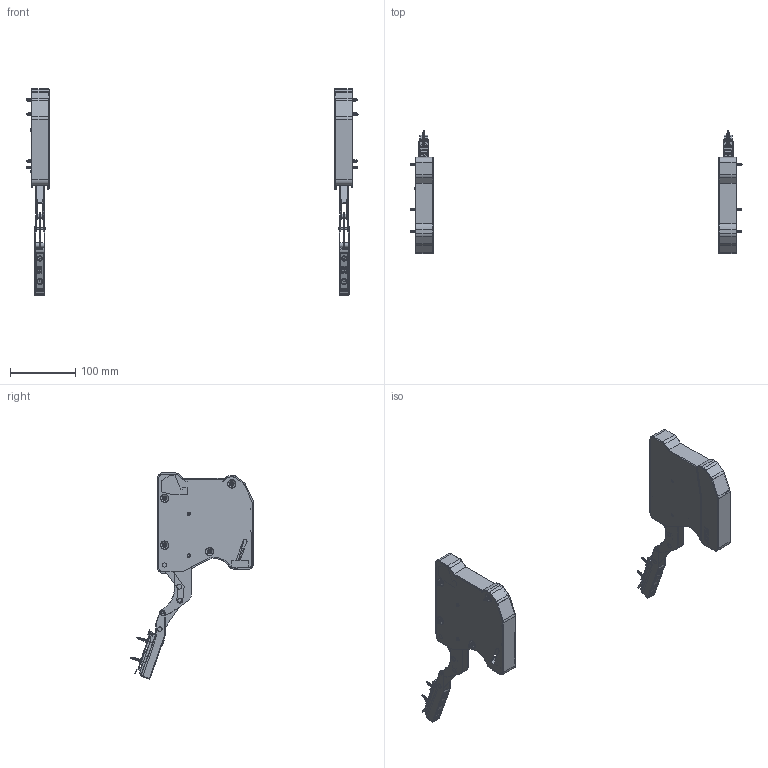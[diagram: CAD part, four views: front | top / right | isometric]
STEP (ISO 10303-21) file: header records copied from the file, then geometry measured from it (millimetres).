
FILE_DESCRIPTION(/* description */ (''),/* implementation_level */ '2;1');
FILE_NAME(/* name */ 'C:\Users\dmitruk\Documents\WORK\\X2\041F043E0434044A0435043C043D0438043A0438\X0\\HELIOS\HELIOS открыто.stp',/* time_stamp */ '2022-08-03T16:20:45+03:00',/* author */ ('dmitruk'),/* organization */ (''),/* preprocessor_version */ 'ST-DEVELOPER v16.5',/* originating_system */ 'Autodesk Inventor 2017',/* authorisation */ '');
FILE_SCHEMA (('AUTOMOTIVE_DESIGN { 1 0 10303 214 3 1 1 }'));
Length unit declared in the file: millimetre
Products named in the file (17): HELIOS комплект; HELIOS; Крышка_1; HELIOS лев \X2\0443044104420430043D043E
0432043A0430\X0\; Корпус; Рычаг1_1; Рычаг2_1; Крепление \X2\043F043B
0430043D043A0438\X0\; Рычаг 3; Ответная \X2\043F043B0430
043D043A0430\X0\; Рычаг 4; Ось; винт Hermes; p6; шляпка; p25; Крышка левая
Assembly tree (36 placements, depth 3):
  HELIOS комплект
    HELIOS
      Корпус
      Рычаг1_1
      Рычаг2_1
      Крепление \X2\043F043B
0430043D043A0438\X0\
      Крышка_1
      Рычаг 3
      Ответная \X2\043F043B0430
043D043A0430\X0\
      Рычаг 4
      Ось
      винт Hermes
      p6  x4
      шляпка
      p25  x2
    HELIOS лев \X2\0443044104420430043D043E
0432043A0430\X0\
      Корпус
      Рычаг1_1
      Рычаг2_1
      Крепление \X2\043F043B
0430043D043A0438\X0\
      Рычаг 3
      Ответная \X2\043F043B0430
043D043A0430\X0\
      Рычаг 4
      Ось
      винт Hermes
      p6  x4
      шляпка
      p25  x2
      Крышка левая
Bounding box: 509.41 x 189.12 x 316.59 mm (x, y, z)
Volume: 288663.9 mm3; surface area: 371890.9 mm2
Topology: 40 solids, 40 shells, 2332 faces, 6084 edges, 3922 vertices
Faces by surface type: plane 1288, cylinder 582, cone 254, torus 154, bspline 50, sphere 4
Full cylindrical faces by diameter (mm): 1.476 x2, 1.87 x2, 2.446 x2, 2.5 x112, 3.104 x4, 3.23 x4, 3.5 x4, 3.6 x50, 3.979 x4, 4 x8, 5.807 x2, 6.171 x2, 6.337 x2, 6.761 x2, 6.883 x8, 6.926 x6, 7 x4, 7.447 x4, 7.627 x2, 8 x4, 8.175 x2, 9.285 x2, 9.808 x2
Entity records: 35605 total; most frequent: CARTESIAN_POINT 9580, DIRECTION 5447, ORIENTED_EDGE 5162, EDGE_CURVE 2581, AXIS2_PLACEMENT_3D 1888, VERTEX_POINT 1729, LINE 1671, VECTOR 1671
